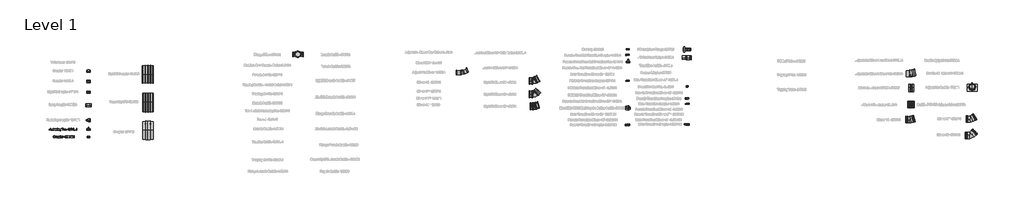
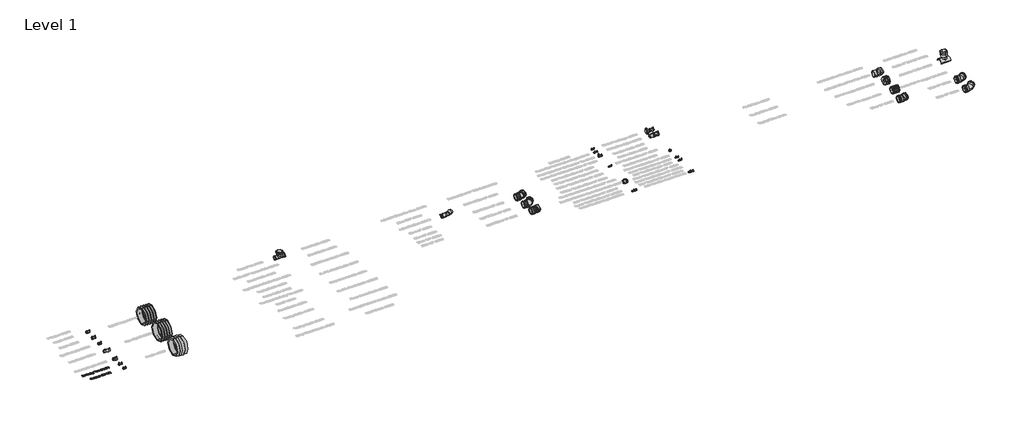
# One storey, part 1 of 41: 34 pipe fittings, 2 proxies.
"""IFC4 building model written with IfcOpenShell, lengths in millimetres."""

from ifc_helpers import new_model, si_unit, origin, origin_with_axes, place, context, project, spatial, polyline, outline, extrude, transform, mapped, element, save
from components import pipe_fitting_def14755, pipe_fitting_6e503bb0, pipe_fitting_ae31b29e, pipe_fitting_21f630c9, pipe_fitting_6928912b, pipe_fitting_00af0812, pipe_fitting_85c0b7c4, pipe_fitting_199b5d55, pipe_fitting_6a6b5253, pipe_fitting_9f1613c2, pipe_fitting_e99ab456, pipe_fitting_df91765d, pipe_fitting_0589dd84, pipe_fitting_ef86ea76, pipe_fitting_d52059ed, pipe_fitting_fce33195, pipe_fitting_4f1da88c, pipe_fitting_ede6b6a5, pipe_fitting_ba987658, pipe_fitting_37475e8d, pipe_fitting_e051d7a7, pipe_fitting_1c2d9a35, pipe_fitting_cfaffc8d, pipe_fitting_a4dbb267, pipe_fitting_78b5cd10, pipe_fitting_f3134fd4, pipe_fitting_a7ee65fd, pipe_fitting_4fac7fd4, pipe_fitting_46703393, pipe_fitting_9c215ce0, pipe_fitting_ad679aff, pipe_fitting_ee337b03, pipe_fitting_7a712ac6, pipe_fitting_be4f198a

model = new_model("IFC4")

# Units and contexts
model_context = context("Model", 3, world=origin())
ifc_project = project(units=[si_unit("LENGTHUNIT", "METRE", prefix="MILLI")], contexts=[model_context])

# Site, building, storey
site = spatial("IfcSite", under=ifc_project)
building = spatial("IfcBuilding", under=site)
storey = spatial("IfcBuildingStorey", under=building, Name="Level 1", Elevation=0.0)

# Proxies
placement = place(None, origin())
element("IfcBuildingElementProxy", 1, Name="100 mm Arial", ObjectType="100 mm Arial", at=placement, inside=storey, context=model_context, shape_type="SweptSolid", body=[
    extrude(outline(polyline([(846.0433016, 2814.3643675), (846.0433016, 2873.4412905), (871.5000324, 2873.4412905), (883.3197439, 2871.8475405), (889.7812824, 2866.2081175), (892.1971478, 2857.2730213), (888.1947439, 2846.6287905), (875.8269555, 2841.1335982), (880.0240709, 2837.9749444), (886.0096478, 2830.3739828), (895.8606093, 2814.3643675), (887.2788786, 2814.3643675), (879.5913786, 2826.6095598), (874.0384939, 2834.715329), (870.1370516, 2838.5446559), (866.6250324, 2839.9509059), (862.3413786, 2840.2105213), (853.427917, 2840.2105213), (853.427917, 2814.3643675), (846.0433016, 2814.3643675)]), holes=[polyline([(853.427917, 2847.5951367), (869.9567632, 2847.5951367), (878.3870516, 2848.6408098), (883.1755132, 2851.9869636), (884.8125324, 2856.9989828), (881.6899363, 2863.5037905), (871.8173401, 2866.0566752), (853.427917, 2866.0566752), (853.427917, 2847.5951367)])]), origin_with_axes(), (0.0, 0.0, 1.0), 5.0),
    extrude(outline(polyline([(934.5721478, 2827.2874444), (941.8125324, 2826.3643675), (935.0408978, 2816.8307136), (922.427917, 2813.4412905), (913.7632536, 2814.90343), (907.0961863, 2819.2898482), (902.8449843, 2826.3156896), (901.427917, 2835.6960982), (902.8594074, 2845.3920117), (907.1538786, 2852.6432136), (913.7308016, 2857.1648482), (922.0096478, 2858.6720598), (930.0306814, 2857.168454), (936.4399363, 2852.6576367), (940.6424603, 2845.4208578), (942.0433016, 2835.7393675), (942.0000324, 2833.7489828), (908.8125324, 2833.7489828), (913.0601286, 2824.1576367), (922.5721478, 2820.8259059), (929.8125324, 2822.3691752), (934.5721478, 2827.2874444)]), holes=[polyline([(908.8125324, 2841.1335982), (934.6586863, 2841.1335982), (931.7019555, 2847.8259059), (921.9808016, 2851.2874444), (912.8870516, 2848.5254252), (908.8125324, 2841.1335982)])]), origin_with_axes(), (0.0, 0.0, 1.0), 5.0),
    extrude(outline(polyline([(976.1971478, 2814.3643675), (976.1971478, 2821.3307136), (971.3113305, 2815.4136463), (964.5577247, 2813.4412905), (955.4134939, 2816.2970598), (948.9519555, 2824.2658098), (946.6586863, 2836.0134059), (948.771667, 2847.7682136), (955.1033978, 2855.8595598), (964.5288786, 2858.6720598), (971.3365709, 2856.6600405), (976.1971478, 2851.4316752), (976.1971478, 2873.4412905), (983.5817632, 2873.4412905), (983.5817632, 2814.3643675), (976.1971478, 2814.3643675)]), holes=[polyline([(954.0433016, 2836.0422521), (957.3750324, 2824.6119636), (965.2356093, 2820.8259059), (973.0024363, 2824.4388867), (976.1971478, 2835.4797521), (972.9447439, 2847.465329), (964.9327247, 2851.2874444), (957.1586863, 2847.6167713), (954.0433016, 2836.0422521)])]), origin_with_axes(), (0.0, 0.0, 1.0), 5.0),
    extrude(outline(polyline([(1022.3509939, 2814.3643675), (1022.3509939, 2821.8210982), (1016.5673401, 2815.5362425), (1009.0240709, 2813.4412905), (1002.0793593, 2814.9124444), (997.2908978, 2818.6047521), (995.0913786, 2824.0422521), (994.6586863, 2830.9076367), (994.6586863, 2857.7489828), (1002.0433016, 2857.7489828), (1002.0433016, 2834.3835982), (1002.490417, 2826.8547521), (1005.4110901, 2822.434079), (1010.9134939, 2820.8259059), (1017.0793593, 2822.4701367), (1021.1538786, 2826.9485021), (1022.3509939, 2835.1768675), (1022.3509939, 2857.7489828), (1029.7356093, 2857.7489828), (1029.7356093, 2814.3643675), (1022.3509939, 2814.3643675)])), origin_with_axes(), (0.0, 0.0, 1.0), 5.0),
    extrude(outline(polyline([(1067.5817632, 2830.0566752), (1074.9663786, 2829.1335982), (1069.0384939, 2817.6023482), (1057.3269555, 2813.4412905), (1049.4717872, 2814.8926127), (1043.3293593, 2819.246579), (1039.3648161, 2826.3120838), (1038.0433016, 2835.8980213), (1040.3005132, 2848.1648482), (1047.1803209, 2856.0470598), (1057.2259939, 2858.6720598), (1068.4543593, 2855.0662905), (1074.0433016, 2844.8259059), (1066.6586863, 2843.902829), (1063.2332055, 2849.434079), (1057.2836863, 2851.2874444), (1048.7235901, 2847.6384059), (1045.427917, 2836.0999444), (1048.6514747, 2824.4533098), (1057.0817632, 2820.8259059), (1064.0408978, 2823.090329), (1067.5817632, 2830.0566752)])), origin_with_axes(), (0.0, 0.0, 1.0), 5.0),
    extrude(outline(polyline([(1081.427917, 2814.3643675), (1081.427917, 2857.7489828), (1088.8125324, 2857.7489828), (1088.8125324, 2814.3643675), (1081.427917, 2814.3643675)])), origin_with_axes(), (0.0, 0.0, 1.0), 5.0),
    extrude(outline(polyline([(1081.427917, 2866.0566752), (1081.427917, 2873.4412905), (1088.8125324, 2873.4412905), (1088.8125324, 2866.0566752), (1081.427917, 2866.0566752)])), origin_with_axes(), (0.0, 0.0, 1.0), 5.0),
    extrude(outline(polyline([(1099.8894555, 2814.3643675), (1099.8894555, 2857.7489828), (1107.2740709, 2857.7489828), (1107.2740709, 2851.6912905), (1112.9207055, 2856.9268675), (1120.6298401, 2858.6720598), (1127.6033978, 2857.2658098), (1132.3630132, 2853.5735021), (1134.5769555, 2848.1432136), (1134.9663786, 2841.0037905), (1134.9663786, 2814.3643675), (1127.5817632, 2814.3643675), (1127.5817632, 2840.0085982), (1126.7308016, 2846.5422521), (1123.7235901, 2849.996579), (1118.6538786, 2851.2874444), (1110.6418593, 2848.3884059), (1107.2740709, 2837.3835982), (1107.2740709, 2814.3643675), (1099.8894555, 2814.3643675)])), origin_with_axes(), (0.0, 0.0, 1.0), 5.0),
    extrude(outline(polyline([(1143.2740709, 2810.6720598), (1150.6586863, 2809.7489828), (1153.052917, 2805.8547521), (1160.2211863, 2804.2105213), (1167.7788786, 2806.0710982), (1171.3846478, 2811.2922521), (1171.8894555, 2819.902829), (1160.3509939, 2814.3643675), (1152.7374122, 2815.9761463), (1147.0601286, 2820.8114828), (1142.3509939, 2836.2730213), (1144.4639747, 2847.7177328), (1150.5793593, 2855.8162905), (1159.990417, 2858.6720598), (1166.5781574, 2857.0566752), (1171.8894555, 2852.2105213), (1171.8894555, 2857.7489828), (1179.2740709, 2857.7489828), (1179.2740709, 2820.2922521), (1177.2548401, 2805.9485021), (1170.8582055, 2799.277829), (1160.0769555, 2796.8259059), (1147.7957055, 2800.2802328), (1143.2740709, 2810.6720598)]), holes=[polyline([(1149.7356093, 2836.777829), (1152.8870516, 2825.3475405), (1160.7981093, 2821.7489828), (1168.6947439, 2825.3259059), (1171.8894555, 2836.5614828), (1168.6009939, 2847.5735021), (1160.6827247, 2851.2874444), (1152.9303209, 2847.6311944), (1149.7356093, 2836.777829)])]), origin_with_axes(), (0.0, 0.0, 1.0), 5.0),
    extrude(outline(polyline([(1229.1202247, 2814.3643675), (1229.1202247, 2866.0566752), (1209.7356093, 2866.0566752), (1209.7356093, 2873.4412905), (1255.8894555, 2873.4412905), (1255.8894555, 2866.0566752), (1236.5048401, 2866.0566752), (1236.5048401, 2814.3643675), (1229.1202247, 2814.3643675)])), origin_with_axes(), (0.0, 0.0, 1.0), 5.0),
    extrude(outline(polyline([(1293.6490709, 2827.2874444), (1300.8894555, 2826.3643675), (1294.1178209, 2816.8307136), (1281.5048401, 2813.4412905), (1272.8401766, 2814.90343), (1266.1731093, 2819.2898482), (1261.9219074, 2826.3156896), (1260.5048401, 2835.6960982), (1261.9363305, 2845.3920117), (1266.2308016, 2852.6432136), (1272.8077247, 2857.1648482), (1281.0865709, 2858.6720598), (1289.1076045, 2857.168454), (1295.5168593, 2852.6576367), (1299.7193834, 2845.4208578), (1301.1202247, 2835.7393675), (1301.0769555, 2833.7489828), (1267.8894555, 2833.7489828), (1272.1370516, 2824.1576367), (1281.6490709, 2820.8259059), (1288.8894555, 2822.3691752), (1293.6490709, 2827.2874444)]), holes=[polyline([(1267.8894555, 2841.1335982), (1293.7356093, 2841.1335982), (1290.7788786, 2847.8259059), (1281.0577247, 2851.2874444), (1271.9639747, 2848.5254252), (1267.8894555, 2841.1335982)])]), origin_with_axes(), (0.0, 0.0, 1.0), 5.0),
    extrude(outline(polyline([(1338.8798401, 2827.2874444), (1346.1202247, 2826.3643675), (1339.3485901, 2816.8307136), (1326.7356093, 2813.4412905), (1318.0709459, 2814.90343), (1311.4038786, 2819.2898482), (1307.1526766, 2826.3156896), (1305.7356093, 2835.6960982), (1307.1670997, 2845.3920117), (1311.4615709, 2852.6432136), (1318.0384939, 2857.1648482), (1326.3173401, 2858.6720598), (1334.3383738, 2857.168454), (1340.7476286, 2852.6576367), (1344.9501526, 2845.4208578), (1346.3509939, 2835.7393675), (1346.3077247, 2833.7489828), (1313.1202247, 2833.7489828), (1317.3678209, 2824.1576367), (1326.8798401, 2820.8259059), (1334.1202247, 2822.3691752), (1338.8798401, 2827.2874444)]), holes=[polyline([(1313.1202247, 2841.1335982), (1338.9663786, 2841.1335982), (1336.0096478, 2847.8259059), (1326.2884939, 2851.2874444), (1317.1947439, 2848.5254252), (1313.1202247, 2841.1335982)])]), origin_with_axes(), (0.0, 0.0, 1.0), 5.0),
    extrude(outline(polyline([(1398.9663786, 2814.3643675), (1398.9663786, 2828.2105213), (1372.1971478, 2828.2105213), (1372.1971478, 2835.5951367), (1400.8125324, 2872.5182136), (1406.3509939, 2872.5182136), (1406.3509939, 2835.5951367), (1413.7356093, 2835.5951367), (1413.7356093, 2828.2105213), (1406.3509939, 2828.2105213), (1406.3509939, 2814.3643675), (1398.9663786, 2814.3643675)]), holes=[polyline([(1398.9663786, 2835.5951367), (1398.9663786, 2858.4124444), (1381.2836863, 2835.5951367), (1398.9663786, 2835.5951367)])]), origin_with_axes(), (0.0, 0.0, 1.0), 5.0),
    extrude(outline(polyline([(1421.1202247, 2829.1335982), (1428.5048401, 2830.0566752), (1431.8221478, 2823.0110021), (1438.1106093, 2820.8259059), (1444.0889747, 2822.2321559), (1448.1418593, 2825.9893675), (1450.5577247, 2832.4076367), (1451.6250324, 2840.9749444), (1445.6755132, 2836.8210982), (1437.5769555, 2834.6720598), (1425.2380132, 2839.9220598), (1420.1971478, 2853.7537905), (1425.4832055, 2868.0326367), (1438.7308016, 2873.4412905), (1449.2524363, 2870.3547521), (1456.4928209, 2861.5566752), (1458.9663786, 2845.027829), (1456.5000324, 2827.0927328), (1449.1658978, 2816.9316752), (1437.7644555, 2813.4412905), (1426.4134939, 2817.559079), (1421.1202247, 2829.1335982)]), holes=[polyline([(1451.5817632, 2853.9268675), (1448.3942632, 2862.7826367), (1439.927917, 2866.0566752), (1431.0433016, 2862.5302328), (1427.5817632, 2853.3932136), (1430.8558016, 2845.2081175), (1439.7259939, 2842.0566752), (1448.2428209, 2845.2081175), (1451.5817632, 2853.9268675)])]), origin_with_axes(), (0.0, 0.0, 1.0), 5.0),
    extrude(outline(polyline([(1493.1202247, 2814.3643675), (1485.7356093, 2814.3643675), (1485.7356093, 2860.402829), (1478.740417, 2855.4196559), (1470.9663786, 2851.6912905), (1470.9663786, 2858.6720598), (1481.7908978, 2865.5807136), (1488.3606093, 2873.4412905), (1493.1202247, 2873.4412905), (1493.1202247, 2814.3643675)])), origin_with_axes(), (0.0, 0.0, 1.0), 5.0),
    extrude(outline(polyline([(1534.6586863, 2814.3643675), (1534.6586863, 2828.2105213), (1507.8894555, 2828.2105213), (1507.8894555, 2835.5951367), (1536.5048401, 2872.5182136), (1542.0433016, 2872.5182136), (1542.0433016, 2835.5951367), (1549.427917, 2835.5951367), (1549.427917, 2828.2105213), (1542.0433016, 2828.2105213), (1542.0433016, 2814.3643675), (1534.6586863, 2814.3643675)]), holes=[polyline([(1534.6586863, 2835.5951367), (1534.6586863, 2858.4124444), (1516.9759939, 2835.5951367), (1534.6586863, 2835.5951367)])]), origin_with_axes(), (0.0, 0.0, 1.0), 5.0),
    extrude(outline(polyline([(1555.8894555, 2843.4268675), (1558.0601286, 2860.4244636), (1564.5072439, 2870.2249444), (1575.2740709, 2873.4412905), (1583.8990709, 2871.5374444), (1589.8558016, 2866.0494636), (1593.3173401, 2857.309079), (1594.6586863, 2843.4268675), (1592.5096478, 2826.5013867), (1586.084167, 2816.6792713), (1575.2740709, 2813.4412905), (1567.6009939, 2814.8475405), (1561.7740709, 2819.0662905), (1557.3606093, 2829.0578771), (1555.8894555, 2843.4268675)]), holes=[polyline([(1563.2740709, 2843.4412905), (1566.7356093, 2825.1023482), (1575.2740709, 2820.8259059), (1583.8125324, 2825.1167713), (1587.2740709, 2843.4412905), (1583.927917, 2861.5710982), (1575.1875324, 2866.0566752), (1566.8509939, 2862.1047521), (1563.2740709, 2843.4412905)])]), origin_with_axes(), (0.0, 0.0, 1.0), 5.0),
    extrude(outline(polyline([(1625.1202247, 2814.3643675), (1625.1202247, 2828.2105213), (1598.3509939, 2828.2105213), (1598.3509939, 2835.5951367), (1626.9663786, 2872.5182136), (1632.5048401, 2872.5182136), (1632.5048401, 2835.5951367), (1639.8894555, 2835.5951367), (1639.8894555, 2828.2105213), (1632.5048401, 2828.2105213), (1632.5048401, 2814.3643675), (1625.1202247, 2814.3643675)]), holes=[polyline([(1625.1202247, 2835.5951367), (1625.1202247, 2858.4124444), (1607.4375324, 2835.5951367), (1625.1202247, 2835.5951367)])]), origin_with_axes(), (0.0, 0.0, 1.0), 5.0),
])
element("IfcBuildingElementProxy", 2, Name="100 mm Arial", ObjectType="100 mm Arial", at=placement, inside=storey, context=model_context, shape_type="SweptSolid", body=[
    extrude(outline(polyline([(1008.5542144, 2615.7898149), (1016.0884376, 2613.8473979), (1007.1562628, 2598.6538715), (991.3814828, 2593.4225896), (975.7023522, 2597.3809998), (966.5053023, 2608.8442028), (963.3488748, 2624.9574342), (966.9173302, 2641.3355406), (977.0635156, 2651.952615), (991.5433509, 2655.5799315), (1006.6338704, 2650.8857572), (1015.1466597, 2637.6714359), (1007.6124365, 2635.8761718), (1001.4320189, 2645.1394404), (991.2490453, 2648.0457082), (979.4621062, 2644.8230619), (972.8034421, 2636.1704774), (970.8830981, 2624.9721495), (973.1566088, 2611.9932727), (980.2346584, 2603.7012125), (990.6310036, 2600.9568128), (1002.1604253, 2604.6944939), (1008.5542144, 2615.7898149)])), origin_with_axes(), (0.0, 0.0, 1.0), 5.0),
    extrude(outline(polyline([(1023.6226609, 2616.4961483), (1025.2523781, 2627.168405), (1030.1415299, 2634.6695189), (1043.4147122, 2639.569707), (1051.3296934, 2638.0779455), (1057.6517455, 2633.6026611), (1061.7959361, 2626.4970203), (1063.177333, 2617.11419), (1060.7345966, 2603.7085701), (1053.6197588, 2596.1228434), (1043.4147122, 2593.4225896), (1035.4040818, 2594.9088328), (1029.0893873, 2599.3675626), (1024.9893425, 2606.6221955), (1023.6226609, 2616.4961483)]), holes=[polyline([(1031.1568842, 2616.5108636), (1034.6444055, 2604.834289), (1043.4147122, 2600.9568128), (1052.1555884, 2604.856362), (1055.6431098, 2616.746308), (1052.1335155, 2628.1580075), (1043.4147122, 2632.0354838), (1034.6444055, 2628.1727228), (1031.1568842, 2616.5108636)])]), origin_with_axes(), (0.0, 0.0, 1.0), 5.0),
    extrude(outline(polyline([(1099.9066714, 2594.3643675), (1099.9066714, 2601.9721671), (1094.0058442, 2595.5599839), (1086.3097529, 2593.4225896), (1079.2243456, 2594.9235481), (1074.3388728, 2598.6906597), (1072.0947926, 2604.2383202), (1071.6533342, 2611.2427934), (1071.6533342, 2638.6279291), (1079.1875574, 2638.6279291), (1079.1875574, 2614.7891758), (1079.6437311, 2607.1077998), (1082.6235753, 2602.5975665), (1088.2374545, 2600.9568128), (1094.5282366, 2602.6343547), (1098.6853032, 2607.2034491), (1099.9066714, 2615.5985162), (1099.9066714, 2638.6279291), (1107.4408947, 2638.6279291), (1107.4408947, 2594.3643675), (1099.9066714, 2594.3643675)])), origin_with_axes(), (0.0, 0.0, 1.0), 5.0),
    extrude(outline(polyline([(1117.8004517, 2577.4123651), (1117.8004517, 2638.6279291), (1125.3346749, 2638.6279291), (1125.3346749, 2631.2408587), (1130.543884, 2637.4874949), (1137.5777877, 2639.569707), (1147.1280043, 2636.6560816), (1153.367283, 2628.4449555), (1155.471568, 2616.8345997), (1153.0950503, 2604.6282751), (1146.193584, 2596.314142), (1136.6654404, 2593.4225896), (1130.1097832, 2595.3576488), (1125.3346749, 2600.2504794), (1125.3346749, 2577.4123651), (1117.8004517, 2577.4123651)]), holes=[polyline([(1125.3346749, 2616.1429816), (1128.5941094, 2604.6650633), (1136.5035723, 2600.9568128), (1144.5749033, 2604.7975008), (1147.9373447, 2616.7021622), (1144.6558373, 2628.209511), (1136.8125932, 2632.0354838), (1128.8148386, 2627.9667089), (1125.3346749, 2616.1429816)])]), origin_with_axes(), (0.0, 0.0, 1.0), 5.0),
    extrude(outline(polyline([(1163.9475691, 2594.3643675), (1163.9475691, 2654.6381536), (1171.4817924, 2654.6381536), (1171.4817924, 2594.3643675), (1163.9475691, 2594.3643675)])), origin_with_axes(), (0.0, 0.0, 1.0), 5.0),
    extrude(outline(polyline([(1213.7735066, 2607.5492582), (1221.160577, 2606.6074803), (1214.2517532, 2596.8806803), (1201.383241, 2593.4225896), (1192.5430366, 2594.914351), (1185.7408985, 2599.3896355), (1181.4035698, 2606.5578162), (1179.9577936, 2616.1282663), (1181.4182851, 2626.0206131), (1185.7997597, 2633.4187201), (1192.5099272, 2638.0319603), (1200.9564979, 2639.569707), (1209.1400328, 2638.0356391), (1215.6791353, 2633.4334353), (1219.9668, 2626.0500437), (1221.3960215, 2616.1724121), (1221.3518757, 2614.1417035), (1187.4920168, 2614.1417035), (1191.8256667, 2604.3560424), (1201.5303938, 2600.9568128), (1208.9174642, 2602.5313478), (1213.7735066, 2607.5492582)]), holes=[polyline([(1187.4920168, 2621.6759268), (1213.8617982, 2621.6759268), (1210.8451659, 2628.5038166), (1200.9270673, 2632.0354838), (1191.6490834, 2629.2175077), (1187.4920168, 2621.6759268)])]), origin_with_axes(), (0.0, 0.0, 1.0), 5.0),
    extrude(outline(polyline([(1228.9302448, 2594.3643675), (1228.9302448, 2638.6279291), (1235.5226901, 2638.6279291), (1235.5226901, 2632.0796296), (1240.2021491, 2638.1128943), (1244.9110386, 2639.569707), (1252.4746925, 2637.2446928), (1249.9583796, 2630.4903794), (1244.6608789, 2632.0354838), (1240.4008054, 2630.5492405), (1237.6858363, 2626.4289622), (1236.464468, 2617.6292248), (1236.464468, 2594.3643675), (1228.9302448, 2594.3643675)])), origin_with_axes(), (0.0, 0.0, 1.0), 5.0),
    extrude(outline(polyline([(1303.3306995, 2594.3643675), (1303.3306995, 2608.4910361), (1276.0191401, 2608.4910361), (1276.0191401, 2616.0252593), (1305.2142553, 2653.6963756), (1310.8649227, 2653.6963756), (1310.8649227, 2616.0252593), (1318.399146, 2616.0252593), (1318.399146, 2608.4910361), (1310.8649227, 2608.4910361), (1310.8649227, 2594.3643675), (1303.3306995, 2594.3643675)]), holes=[polyline([(1303.3306995, 2616.0252593), (1303.3306995, 2639.304832), (1285.2897664, 2616.0252593), (1303.3306995, 2616.0252593)])]), origin_with_axes(), (0.0, 0.0, 1.0), 5.0),
    extrude(outline(polyline([(1363.6044856, 2601.8985907), (1363.6044856, 2594.3643675), (1324.0498134, 2594.3643675), (1324.8591538, 2599.5588612), (1329.4356058, 2607.5566158), (1338.8681002, 2616.2901344), (1351.8764076, 2628.842268), (1355.1284844, 2637.3771303), (1352.0603486, 2644.2859542), (1344.0478787, 2647.1039303), (1335.6969574, 2644.352173), (1332.5258146, 2636.7443733), (1324.9915913, 2637.6861512), (1330.7673387, 2650.297146), (1344.2097468, 2654.6381536), (1357.6963007, 2649.8115418), (1362.6627077, 2637.833304), (1361.3236172, 2630.6890357), (1356.872245, 2623.3019652), (1346.0785873, 2612.9791964), (1337.4112875, 2605.7319211), (1334.0120579, 2601.8985907), (1363.6044856, 2601.8985907)])), origin_with_axes(), (0.0, 0.0, 1.0), 5.0),
    extrude(outline(polyline([(1371.1387088, 2624.0156563), (1373.3533584, 2641.3576135), (1379.9310885, 2651.3566462), (1390.9160449, 2654.6381536), (1399.7157822, 2652.6957366), (1405.7931928, 2647.0965726), (1409.3248599, 2638.1791131), (1410.6933809, 2624.0156563), (1408.5008043, 2606.7472754), (1401.9451471, 2596.7261699), (1390.9160449, 2593.4225896), (1383.087516, 2594.8573293), (1377.142543, 2599.1615487), (1372.6396674, 2609.3555588), (1371.1387088, 2624.0156563)]), holes=[polyline([(1378.6729321, 2624.0303716), (1382.2045992, 2605.3198933), (1390.9160449, 2600.9568128), (1399.6274905, 2605.3346086), (1403.1591577, 2624.0303716), (1399.7452128, 2642.5274783), (1390.8277532, 2647.1039303), (1382.3223215, 2643.0719436), (1378.6729321, 2624.0303716)])]), origin_with_axes(), (0.0, 0.0, 1.0), 5.0),
    extrude(outline(polyline([(1445.5391635, 2594.3643675), (1438.0049403, 2594.3643675), (1438.0049403, 2641.3355406), (1430.8680296, 2636.2514114), (1422.9364937, 2632.4475116), (1422.9364937, 2639.569707), (1433.9803112, 2646.6183261), (1440.6831212, 2654.6381536), (1445.5391635, 2654.6381536), (1445.5391635, 2594.3643675)])), origin_with_axes(), (0.0, 0.0, 1.0), 5.0),
    extrude(outline(polyline([(1494.5116147, 2617.9088152), (1494.5116147, 2625.4430384), (1518.9978403, 2625.4430384), (1518.9978403, 2602.913945), (1506.909238, 2595.8064649), (1494.1290174, 2593.4225896), (1478.037859, 2597.2117741), (1467.1191214, 2608.1820152), (1463.4329438, 2624.2069549), (1467.1044061, 2640.592419), (1477.6626193, 2651.8863962), (1493.525691, 2655.5799315), (1505.3126301, 2653.4388582), (1513.5752597, 2647.4791699), (1518.1296388, 2637.5095679), (1511.1840267, 2635.5524356), (1507.7480089, 2642.5201206), (1501.8766123, 2646.537392), (1493.4079687, 2648.0457082), (1483.7621028, 2646.4196698), (1477.199088, 2642.1522386), (1473.3216118, 2636.3470608), (1470.967167, 2624.5159758), (1473.7998584, 2611.3825886), (1482.0404151, 2603.5246291), (1493.525691, 2600.9568128), (1503.8337445, 2602.8918721), (1511.4636171, 2607.0195081), (1511.4636171, 2617.9088152), (1494.5116147, 2617.9088152)])), origin_with_axes(), (0.0, 0.0, 1.0), 5.0),
    extrude(outline(polyline([(1552.901845, 2594.3643675), (1552.901845, 2608.4910361), (1525.5902857, 2608.4910361), (1525.5902857, 2616.0252593), (1554.7854008, 2653.6963756), (1560.4360683, 2653.6963756), (1560.4360683, 2616.0252593), (1567.9702915, 2616.0252593), (1567.9702915, 2608.4910361), (1560.4360683, 2608.4910361), (1560.4360683, 2594.3643675), (1552.901845, 2594.3643675)]), holes=[polyline([(1552.901845, 2616.0252593), (1552.901845, 2639.304832), (1534.860912, 2616.0252593), (1552.901845, 2616.0252593)])]), origin_with_axes(), (0.0, 0.0, 1.0), 5.0),
])

# Pipe fittings
pipe_fitting_shape = pipe_fitting_def14755(model_context)
element("IfcPipeFitting", 3, ObjectType="Plumbing_Pipe-Fittings_Plasson_PE-Male-Transition-Coupler_497104 : Plumbing_Pipe-Fittings_Plasson_PE-Male-Transition-Coupler_497104", at=placement, inside=storey, context=model_context, shape_type="MappedRepresentation", body=[
    mapped(pipe_fitting_shape, transform((17331.354929, 4220.135434, 0.0), x_axis=(1.0, 0.0, 0.0), y_axis=(0.0, 1.0, 0.0), z_axis=(0.0, 0.0, 1.0))),
])
pipe_fitting_2_shape = pipe_fitting_6e503bb0(model_context)
element("IfcPipeFitting", 4, ObjectType="Plumbing_Pipe-Fittings_Plasson_Reducing-Tee_491404 : Plumbing_Pipe-Fittings_Plasson_Reducing-Tee_491404", at=placement, inside=storey, context=model_context, shape_type="MappedRepresentation", body=[
    mapped(pipe_fitting_2_shape, transform((1965.7317214, 2828.389293, 0.0), x_axis=(1.0, 0.0, 0.0), y_axis=(0.0, 1.0, 0.0), z_axis=(0.0, 0.0, 1.0))),
])
pipe_fitting_3_shape = pipe_fitting_ae31b29e(model_context)
element("IfcPipeFitting", 5, ObjectType="Plumbing_Pipe-Fittings_Plasson_Super-LightFit_4601S3 : Plumbing_Pipe-Fittings_Plasson_Super-LightFit_4601S3", at=placement, inside=storey, context=model_context, shape_type="MappedRepresentation", body=[
    mapped(pipe_fitting_3_shape, transform((3658.347936, 3603.6292246, 0.0), x_axis=(1.0, 0.0, 0.0), y_axis=(0.0, 1.0, 0.0), z_axis=(0.0, 0.0, 1.0))),
])
pipe_fitting_4_shape = pipe_fitting_21f630c9(model_context)
element("IfcPipeFitting", 6, ObjectType="Plumbing_Pipe-Fittings_Plasson_Wastewater-Adjustable-Elbow-PE-to-PVC_4747V4 : Plumbing_Pipe-Fittings_Plasson_Wastewater-Adjustable-Elbow-PE-to-PVC_4747V4", at=placement, inside=storey, context=model_context, shape_type="MappedRepresentation", body=[
    mapped(pipe_fitting_4_shape, transform((25343.3231089, 4417.3312075, 0.0), x_axis=(1.0, 0.0, 0.0), y_axis=(0.0, 1.0, 0.0), z_axis=(0.0, 0.0, 1.0))),
])
pipe_fitting_5_shape = pipe_fitting_6928912b(model_context)
element("IfcPipeFitting", 7, ObjectType="Plumbing_Pipe-Fittings_Plasson_Wastewater-Adjustable-Saddle_475804 : Plumbing_Pipe-Fittings_Plasson_Wastewater-Adjustable-Saddle_475804", at=placement, inside=storey, context=model_context, shape_type="MappedRepresentation", body=[
    mapped(pipe_fitting_5_shape, transform((27132.9707275, 4018.6797077, 0.0), x_axis=(1.0, 0.0, 0.0), y_axis=(0.0, 1.0, 0.0), z_axis=(0.0, 0.0, 1.0))),
])
pipe_fitting_6_shape = pipe_fitting_00af0812(model_context)
element("IfcPipeFitting", 8, ObjectType="Plumbing_Pipe-Fittings_Plasson_Wastewater-Elbow-15_473704 : Plumbing_Pipe-Fittings_Plasson_Wastewater-Elbow-15_473704", at=placement, inside=storey, context=model_context, shape_type="MappedRepresentation", body=[
    mapped(pipe_fitting_6_shape, transform((25369.0959603, 3114.0366498, 0.0), x_axis=(1.0, 0.0, 0.0), y_axis=(0.0, 1.0, 0.0), z_axis=(0.0, 0.0, 1.0))),
])
pipe_fitting_7_shape = pipe_fitting_85c0b7c4(model_context)
element("IfcPipeFitting", 9, ObjectType="Plumbing_Pipe-Fittings_Plasson_Wastewater-Elbow-30_473304 : Plumbing_Pipe-Fittings_Plasson_Wastewater-Elbow-30_473304", at=placement, inside=storey, context=model_context, shape_type="MappedRepresentation", body=[
    mapped(pipe_fitting_7_shape, transform((27102.0315458, 3127.7921473, 0.0), x_axis=(1.0, 0.0, 0.0), y_axis=(0.0, 1.0, 0.0), z_axis=(0.0, 0.0, 1.0))),
])
pipe_fitting_8_shape = pipe_fitting_199b5d55(model_context)
element("IfcPipeFitting", 10, ObjectType="Plumbing_Pipe-Fittings_Plasson_Wastewater-Elbow-45_470604 : Plumbing_Pipe-Fittings_Plasson_Wastewater-Elbow-45_470604", at=placement, inside=storey, context=model_context, shape_type="MappedRepresentation", body=[
    mapped(pipe_fitting_8_shape, transform((27103.7228439, 2662.5163117, 0.0), x_axis=(1.0, 0.0, 0.0), y_axis=(0.0, 1.0, 0.0), z_axis=(0.0, 0.0, 1.0))),
])
pipe_fitting_9_shape = pipe_fitting_6a6b5253(model_context)
element("IfcPipeFitting", 11, ObjectType="Plumbing_Pipe-Fittings_Plasson_Wastewater-Manhole-Adaptor_37020-477207 : Plumbing_Pipe-Fittings_Plasson_Wastewater-Manhole-Adaptor_37020-477207", at=placement, inside=storey, context=model_context, shape_type="MappedRepresentation", body=[
    mapped(pipe_fitting_9_shape, transform((25331.4837174, 4013.963567, 0.0), x_axis=(1.0, 0.0, 0.0), y_axis=(0.0, 1.0, 0.0), z_axis=(0.0, 0.0, 1.0))),
])
pipe_fitting_10_shape = pipe_fitting_9f1613c2(model_context)
element("IfcPipeFitting", 12, ObjectType="Plumbing_Pipe-Fittings_Plasson_Wastewater-PE-to-PVC-Adaptor_4701V4 : Plumbing_Pipe-Fittings_Plasson_Wastewater-PE-to-PVC-Adaptor_4701V4", at=placement, inside=storey, context=model_context, shape_type="MappedRepresentation", body=[
    mapped(pipe_fitting_10_shape, transform((25398.4409176, 3544.4531991, 0.0), x_axis=(1.0, 0.0, 0.0), y_axis=(0.0, 1.0, 0.0), z_axis=(0.0, 0.0, 1.0))),
])
pipe_fitting_11_shape = pipe_fitting_e99ab456(model_context)
element("IfcPipeFitting", 13, ObjectType="Plumbing_Pipe-Fittings_Plasson_Long-Coupler_4901L4 : Plumbing_Pipe-Fittings_Plasson_Long-Coupler_4901L4", at=placement, inside=storey, context=model_context, shape_type="MappedRepresentation", body=[
    mapped(pipe_fitting_11_shape, transform((1966.1345558, 3524.1719995, 0.0), x_axis=(1.0, 0.0, 0.0), y_axis=(0.0, 1.0, 0.0), z_axis=(0.0, 0.0, 1.0))),
])
pipe_fitting_12_shape = pipe_fitting_df91765d(model_context)
element("IfcPipeFitting", 14, ObjectType="Plumbing_Pipe-Fittings_Plasson_Coupler_490104 : Plumbing_Pipe-Fittings_Plasson_Coupler_490104", at=placement, inside=storey, context=model_context, shape_type="MappedRepresentation", body=[
    mapped(pipe_fitting_12_shape, transform((1966.1345558, 4199.4920948, 0.0), x_axis=(1.0, 0.0, 0.0), y_axis=(0.0, 1.0, 0.0), z_axis=(0.0, 0.0, 1.0))),
])
pipe_fitting_13_shape = pipe_fitting_0589dd84(model_context)
element("IfcPipeFitting", 15, ObjectType="Plumbing_Pipe-Fittings_Plasson_Male-Transition-Coupler_492104N : Plumbing_Pipe-Fittings_Plasson_Male-Transition-Coupler_492104N", at=placement, inside=storey, context=model_context, shape_type="MappedRepresentation", body=[
    mapped(pipe_fitting_13_shape, transform((19035.2669001, 2977.0014128, 0.0), x_axis=(1.0, 0.0, 0.0), y_axis=(0.0, 1.0, 0.0), z_axis=(0.0, 0.0, 1.0))),
])
pipe_fitting_14_shape = pipe_fitting_ef86ea76(model_context)
element("IfcPipeFitting", 16, ObjectType="Plumbing_Pipe-Fittings_Plasson_Female-Transition-Coupler_493104N : Plumbing_Pipe-Fittings_Plasson_Female-Transition-Coupler_493104N", at=placement, inside=storey, context=model_context, shape_type="MappedRepresentation", body=[
    mapped(pipe_fitting_14_shape, transform((17341.6037579, 2966.8960241, 0.0), x_axis=(1.0, 0.0, 0.0), y_axis=(0.0, 1.0, 0.0), z_axis=(0.0, 0.0, 1.0))),
])
pipe_fitting_15_shape = pipe_fitting_d52059ed(model_context)
element("IfcPipeFitting", 17, ObjectType="Plumbing_Pipe-Fittings_Plasson_Reducing-Coupler_491104 : Plumbing_Pipe-Fittings_Plasson_Reducing-Coupler_491104", at=placement, inside=storey, context=model_context, shape_type="MappedRepresentation", body=[
    mapped(pipe_fitting_15_shape, transform((1958.308174, 3095.9927762, 0.0), x_axis=(1.0, 0.0, 0.0), y_axis=(0.0, 1.0, 0.0), z_axis=(0.0, 0.0, 1.0))),
])
pipe_fitting_16_shape = pipe_fitting_fce33195(model_context)
element("IfcPipeFitting", 18, ObjectType="Plumbing_Pipe-Fittings_Plasson_Coupler_4201G4 : Plumbing_Pipe-Fittings_Plasson_Coupler_4201G4", at=placement, inside=storey, context=model_context, shape_type="MappedRepresentation", body=[
    mapped(pipe_fitting_16_shape, transform((1968.7066153, 2615.3390285, 0.0), x_axis=(1.0, 0.0, 0.0), y_axis=(0.0, 1.0, 0.0), z_axis=(0.0, 0.0, 1.0))),
])
pipe_fitting_17_shape = pipe_fitting_4f1da88c(model_context)
element("IfcPipeFitting", 19, ObjectType="Plumbing_Pipe-Fittings_Plasson_Adjustable-Elbow_4947C4 : Plumbing_Pipe-Fittings_Plasson_Adjustable-Elbow_4947C4", at=placement, inside=storey, context=model_context, shape_type="MappedRepresentation", body=[
    mapped(pipe_fitting_17_shape, transform((12611.4555155, 4446.674262, 0.0), x_axis=(1.0, 0.0, 0.0), y_axis=(0.0, 1.0, 0.0), z_axis=(0.0, 0.0, 1.0))),
])
pipe_fitting_18_shape = pipe_fitting_ede6b6a5(model_context)
element("IfcPipeFitting", 20, ObjectType="Plumbing_Pipe-Fittings_Plasson_Coupler_450104 : Plumbing_Pipe-Fittings_Plasson_Coupler_450104", at=placement, inside=storey, context=model_context, shape_type="MappedRepresentation", body=[
    mapped(pipe_fitting_18_shape, transform((1966.1345558, 4495.1476485, 0.0), x_axis=(1.0, 0.0, 0.0), y_axis=(0.0, 1.0, 0.0), z_axis=(0.0, 0.0, 1.0))),
])
pipe_fitting_19_shape = pipe_fitting_ba987658(model_context)
element("IfcPipeFitting", 21, ObjectType="Plumbing_Pipe-Fittings_Plasson_Coupler_490103 : Plumbing_Pipe-Fittings_Plasson_Coupler_490103", at=placement, inside=storey, context=model_context, shape_type="MappedRepresentation", body=[
    mapped(pipe_fitting_19_shape, transform((3664.0146027, 2806.7756051, 0.0), x_axis=(1.0, 0.0, 0.0), y_axis=(0.0, 1.0, 0.0), z_axis=(0.0, 0.0, 1.0))),
])
pipe_fitting_20_shape = pipe_fitting_37475e8d(model_context)
element("IfcPipeFitting", 22, ObjectType="Plumbing_Pipe-Fittings_Plasson_End-Cap_491204 : Plumbing_Pipe-Fittings_Plasson_End-Cap_491204", at=placement, inside=storey, context=model_context, shape_type="MappedRepresentation", body=[
    mapped(pipe_fitting_20_shape, transform((17322.8138699, 5111.6493031, 0.0), x_axis=(1.0, 0.0, 0.0), y_axis=(0.0, 1.0, 0.0), z_axis=(0.0, 0.0, 1.0))),
])
pipe_fitting_21_shape = pipe_fitting_e051d7a7(model_context)
element("IfcPipeFitting", 23, ObjectType="Plumbing_Pipe-Fittings_Plasson_Female-Free-Nut-Transition-Coupler_494104 : Plumbing_Pipe-Fittings_Plasson_Female-Free-Nut-Transition-Coupler_494104", at=placement, inside=storey, context=model_context, shape_type="MappedRepresentation", body=[
    mapped(pipe_fitting_21_shape, transform((17319.3266792, 4956.6791157, 0.0), x_axis=(1.0, 0.0, 0.0), y_axis=(0.0, 1.0, 0.0), z_axis=(0.0, 0.0, 1.0))),
])
pipe_fitting_22_shape = pipe_fitting_1c2d9a35(model_context)
element("IfcPipeFitting", 24, ObjectType="Plumbing_Pipe-Fittings_Plasson_Female-Transition-Coupler_493104 : Plumbing_Pipe-Fittings_Plasson_Female-Transition-Coupler_493104", at=placement, inside=storey, context=model_context, shape_type="MappedRepresentation", body=[
    mapped(pipe_fitting_22_shape, transform((19027.344521, 3715.7703294, 0.0), x_axis=(1.0, 0.0, 0.0), y_axis=(0.0, 1.0, 0.0), z_axis=(0.0, 0.0, 1.0))),
])
pipe_fitting_23_shape = pipe_fitting_cfaffc8d(model_context)
element("IfcPipeFitting", 25, ObjectType="Plumbing_Pipe-Fittings_Plasson_Female-Union-Free-Nut-Transition-Tee_494404 : Plumbing_Pipe-Fittings_Plasson_Female-Union-Free-Nut-Transition-Tee_494404", at=placement, inside=storey, context=model_context, shape_type="MappedRepresentation", body=[
    mapped(pipe_fitting_23_shape, transform((17334.482944, 4751.0924709, 0.0), x_axis=(1.0, 0.0, 0.0), y_axis=(0.0, 1.0, 0.0), z_axis=(0.0, 0.0, 1.0))),
])
pipe_fitting_24_shape = pipe_fitting_a4dbb267(model_context)
element("IfcPipeFitting", 26, ObjectType="Plumbing_Pipe-Fittings_Plasson_Flanged-Tee_499404 : Plumbing_Pipe-Fittings_Plasson_Flanged-Tee_499404", at=placement, inside=storey, context=model_context, shape_type="MappedRepresentation", body=[
    mapped(pipe_fitting_24_shape, transform((7931.9052548, 4971.4249729, 0.0), x_axis=(1.0, 0.0, 0.0), y_axis=(0.0, 0.0, 1.0000000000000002), z_axis=(0.0, -1.0000000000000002, 0.0))),
])
pipe_fitting_25_shape = pipe_fitting_78b5cd10(model_context)
element("IfcPipeFitting", 27, ObjectType="Plumbing_Pipe-Fittings_Plasson_LightFit-Coupler_460103 : Plumbing_Pipe-Fittings_Plasson_LightFit-Coupler_460103", at=placement, inside=storey, context=model_context, shape_type="MappedRepresentation", body=[
    mapped(pipe_fitting_25_shape, transform((3656.847936, 4409.1120888, 0.0), x_axis=(1.0, 0.0, 0.0), y_axis=(0.0, 1.0, 0.0), z_axis=(0.0, 0.0, 1.0))),
])
pipe_fitting_26_shape = pipe_fitting_f3134fd4(model_context)
element("IfcPipeFitting", 28, ObjectType="Plumbing_Pipe-Fittings_Plasson_LightFit-Coupler_460104 : Plumbing_Pipe-Fittings_Plasson_LightFit-Coupler_460104", at=placement, inside=storey, context=model_context, shape_type="MappedRepresentation", body=[
    mapped(pipe_fitting_26_shape, transform((1966.1345558, 3893.0735276, 0.0), x_axis=(1.0, 0.0, 0.0), y_axis=(0.0, 1.0, 0.0), z_axis=(0.0, 0.0, 1.0))),
])
pipe_fitting_27_shape = pipe_fitting_a7ee65fd(model_context)
element("IfcPipeFitting", 29, ObjectType="Plumbing_Pipe-Fittings_Plasson_LightFit-Elbow-15_46370 : Plumbing_Pipe-Fittings_Plasson_LightFit-Elbow-15_46370", at=placement, inside=storey, context=model_context, shape_type="MappedRepresentation", body=[
    mapped(pipe_fitting_27_shape, transform((14666.2618516, 3495.4890515, 0.0), x_axis=(1.0, 0.0, 0.0), y_axis=(0.0, 1.0, 0.0), z_axis=(0.0, 0.0, 1.0))),
])
pipe_fitting_28_shape = pipe_fitting_4fac7fd4(model_context)
element("IfcPipeFitting", 30, ObjectType="Plumbing_Pipe-Fittings_Plasson_LightFit-Elbow-30_46330 : Plumbing_Pipe-Fittings_Plasson_LightFit-Elbow-30_46330", at=placement, inside=storey, context=model_context, shape_type="MappedRepresentation", body=[
    mapped(pipe_fitting_28_shape, transform((14658.5497017, 4220.8991265, 0.0), x_axis=(1.0, 0.0, 0.0), y_axis=(0.0, 1.0, 0.0), z_axis=(0.0, 0.0, 1.0))),
])
pipe_fitting_29_shape = pipe_fitting_46703393(model_context)
element("IfcPipeFitting", 31, ObjectType="Plumbing_Pipe-Fittings_Plasson_LightFit-Elbow-45_46060 : Plumbing_Pipe-Fittings_Plasson_LightFit-Elbow-45_46060", at=placement, inside=storey, context=model_context, shape_type="MappedRepresentation", body=[
    mapped(pipe_fitting_29_shape, transform((14673.9242587, 3837.0722836, 0.0), x_axis=(1.0, 0.0, 0.0), y_axis=(0.0, 1.0, 0.0), z_axis=(0.0, 0.0, 1.0))),
])
pipe_fitting_30_shape = pipe_fitting_9c215ce0(model_context)
element("IfcPipeFitting", 32, ObjectType="Plumbing_Pipe-Fittings_Plasson_Male-Transition-Coupler_492104 : Plumbing_Pipe-Fittings_Plasson_Male-Transition-Coupler_492104", at=placement, inside=storey, context=model_context, shape_type="MappedRepresentation", body=[
    mapped(pipe_fitting_30_shape, transform((19036.4191561, 3564.4577062, 0.0), x_axis=(1.0, 0.0, 0.0), y_axis=(0.0, 1.0, 0.0), z_axis=(0.0, 0.0, 1.0))),
])
pipe_fitting_31_shape = pipe_fitting_ad679aff(model_context)
element("IfcPipeFitting", 33, ObjectType="Plumbing_Pipe-Fittings_Plasson_Monolithic-End-Cap_494204 : Plumbing_Pipe-Fittings_Plasson_Monolithic-End-Cap_494204", at=placement, inside=storey, context=model_context, shape_type="MappedRepresentation", body=[
    mapped(pipe_fitting_31_shape, transform((19030.9935067, 4061.6605898, 0.0), x_axis=(-1.0, 0.0, 0.0), y_axis=(0.0, -1.0, 0.0), z_axis=(0.0, 0.0, 1.0))),
])
pipe_fitting_32_shape = pipe_fitting_ee337b03(model_context)
element("IfcPipeFitting", 34, ObjectType="Plumbing_Pipe-Fittings_Plasson_Monolithic-Weld-End-Cap-for-Balloon-Saddle_498304 : Plumbing_Pipe-Fittings_Plasson_Monolithic-Weld-End-Cap-for-Balloon-Saddle_498304", at=placement, inside=storey, context=model_context, shape_type="MappedRepresentation", body=[
    mapped(pipe_fitting_32_shape, transform((17352.1449258, 3443.0216341, 0.0), x_axis=(-1.0, 0.0, 0.0), y_axis=(0.0, -1.0, 0.0), z_axis=(0.0, 0.0, 1.0))),
])
pipe_fitting_33_shape = pipe_fitting_7a712ac6(model_context)
element("IfcPipeFitting", 35, ObjectType="Plumbing_Pipe-Fittings_Plasson_PE-Cast-Iron-Flange-Transition-Coupler_497704 : Plumbing_Pipe-Fittings_Plasson_PE-Cast-Iron-Flange-Transition-Coupler_497704", at=placement, inside=storey, context=model_context, shape_type="MappedRepresentation", body=[
    mapped(pipe_fitting_33_shape, transform((19062.4251925, 5111.8096247, 0.0), x_axis=(1.0, 0.0, 0.0), y_axis=(0.0, 1.0, 0.0), z_axis=(0.0, 0.0, 1.0))),
])
pipe_fitting_34_shape = pipe_fitting_be4f198a(model_context)
element("IfcPipeFitting", 36, ObjectType="Plumbing_Pipe-Fittings_Plasson_PE-Cast-Iron-Spigot-Transition-Coupler_495704 : Plumbing_Pipe-Fittings_Plasson_PE-Cast-Iron-Spigot-Transition-Coupler_495704", at=placement, inside=storey, context=model_context, shape_type="MappedRepresentation", body=[
    mapped(pipe_fitting_34_shape, transform((19060.9170927, 4880.817923, 0.0), x_axis=(1.0, 0.0, 0.0), y_axis=(0.0, 1.0, 0.0), z_axis=(0.0, 0.0, 1.0))),
])

save(model, "model.ifc")
